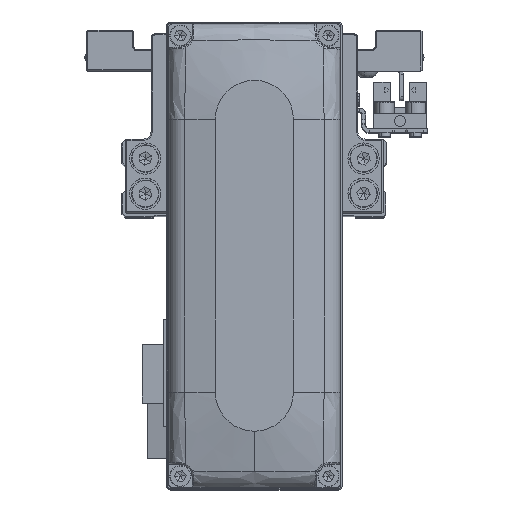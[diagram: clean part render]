
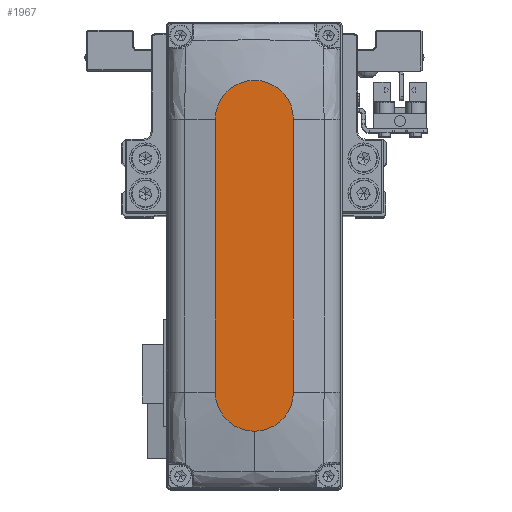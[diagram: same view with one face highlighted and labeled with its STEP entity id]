
A CAD part, top view. The second image highlights one B-rep face of the part: STEP entity #1967.
In plain terms, the highlighted planar face has unit normal (0, 0, 1).
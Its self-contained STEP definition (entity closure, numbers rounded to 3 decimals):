
#352 = CARTESIAN_POINT ( 'NONE',  ( 35., 10., 28. ) ) ;
#1967 = ADVANCED_FACE ( 'NONE', ( #12169 ), #23742, .T. ) ;
#2249 = DIRECTION ( 'NONE',  ( 0., 0., 1. ) ) ;
#2815 = EDGE_CURVE ( 'NONE', #10844, #26582, #9842, .T. ) ;
#3309 = EDGE_CURVE ( 'NONE', #7474, #30795, #19571, .T. ) ;
#4391 = CARTESIAN_POINT ( 'NONE',  ( -35., 10., 28. ) ) ;
#5245 = DIRECTION ( 'NONE',  ( 1., 0., 0. ) ) ;
#6736 = DIRECTION ( 'NONE',  ( 0., 0., 1. ) ) ;
#7313 = LINE ( 'NONE', #18895, #18718 ) ;
#7327 = ORIENTED_EDGE ( 'NONE', *, *, #3309, .T. ) ;
#7474 = VERTEX_POINT ( 'NONE', #17389 ) ;
#8798 = EDGE_CURVE ( 'NONE', #30795, #29894, #29294, .T. ) ;
#9323 = DIRECTION ( 'NONE',  ( 0., 0., 1. ) ) ;
#9520 = CARTESIAN_POINT ( 'NONE',  ( -35., 10., 28. ) ) ;
#9842 = CIRCLE ( 'NONE', #31048, 10. ) ;
#10844 = VERTEX_POINT ( 'NONE', #9520 ) ;
#12028 = VECTOR ( 'NONE', #15982, 1000. ) ;
#12169 = FACE_OUTER_BOUND ( 'NONE', #27728, .T. ) ;
#12966 = AXIS2_PLACEMENT_3D ( 'NONE', #32708, #6736, #18314 ) ;
#13832 = DIRECTION ( 'NONE',  ( 1., 0., 0. ) ) ;
#15982 = DIRECTION ( 'NONE',  ( -1., 0., 0. ) ) ;
#17389 = CARTESIAN_POINT ( 'NONE',  ( 35., -10., 28. ) ) ;
#18314 = DIRECTION ( 'NONE',  ( 1., 0., 0. ) ) ;
#18718 = VECTOR ( 'NONE', #30458, 1000. ) ;
#18895 = CARTESIAN_POINT ( 'NONE',  ( -35., -10., 28. ) ) ;
#19571 = CIRCLE ( 'NONE', #24418, 10. ) ;
#19666 = CARTESIAN_POINT ( 'NONE',  ( 35., 0., 28. ) ) ;
#20890 = DIRECTION ( 'NONE',  ( 1., 0., 0. ) ) ;
#22380 = ORIENTED_EDGE ( 'NONE', *, *, #8798, .T. ) ;
#22491 = EDGE_CURVE ( 'NONE', #29894, #10844, #30373, .T. ) ;
#23742 = PLANE ( 'NONE',  #27371 ) ;
#24418 = AXIS2_PLACEMENT_3D ( 'NONE', #19666, #31234, #5245 ) ;
#26582 = VERTEX_POINT ( 'NONE', #35697 ) ;
#27371 = AXIS2_PLACEMENT_3D ( 'NONE', #35298, #9323, #20890 ) ;
#27728 = EDGE_LOOP ( 'NONE', ( #28557, #28579, #31110, #7327, #22380 ) ) ;
#28240 = CARTESIAN_POINT ( 'NONE',  ( -35., 0., 28. ) ) ;
#28557 = ORIENTED_EDGE ( 'NONE', *, *, #22491, .T. ) ;
#28579 = ORIENTED_EDGE ( 'NONE', *, *, #2815, .T. ) ;
#29294 = CIRCLE ( 'NONE', #12966, 10. ) ;
#29894 = VERTEX_POINT ( 'NONE', #352 ) ;
#30373 = LINE ( 'NONE', #4391, #12028 ) ;
#30458 = DIRECTION ( 'NONE',  ( 1., 0., 0. ) ) ;
#30795 = VERTEX_POINT ( 'NONE', #32082 ) ;
#31048 = AXIS2_PLACEMENT_3D ( 'NONE', #28240, #2249, #13832 ) ;
#31110 = ORIENTED_EDGE ( 'NONE', *, *, #34421, .T. ) ;
#31234 = DIRECTION ( 'NONE',  ( 0., 0., 1. ) ) ;
#32082 = CARTESIAN_POINT ( 'NONE',  ( 45., 0., 28. ) ) ;
#32708 = CARTESIAN_POINT ( 'NONE',  ( 35., 0., 28. ) ) ;
#34421 = EDGE_CURVE ( 'NONE', #26582, #7474, #7313, .T. ) ;
#35298 = CARTESIAN_POINT ( 'NONE',  ( 0., 0., 28. ) ) ;
#35697 = CARTESIAN_POINT ( 'NONE',  ( -35., -10., 28. ) ) ;
